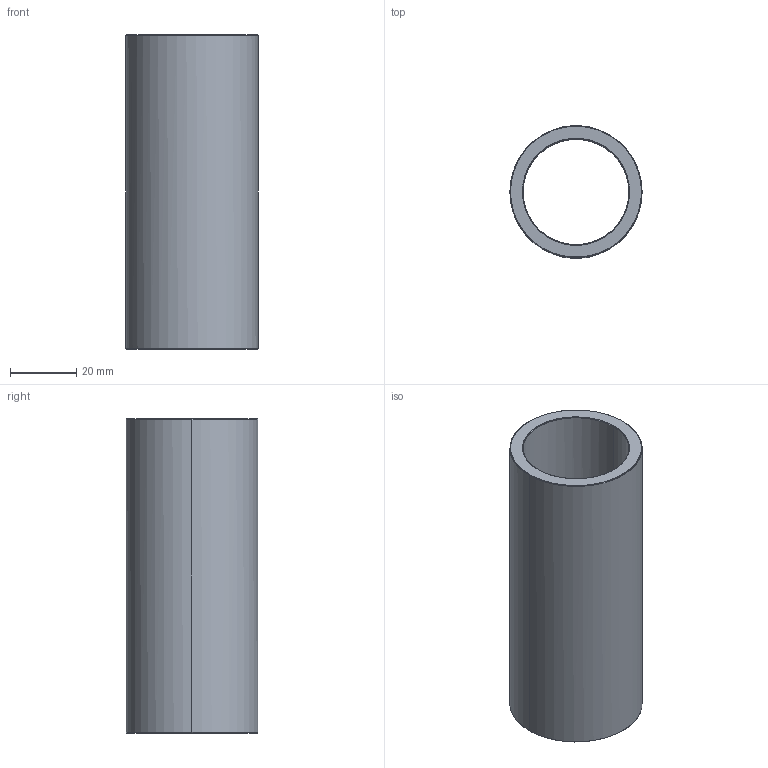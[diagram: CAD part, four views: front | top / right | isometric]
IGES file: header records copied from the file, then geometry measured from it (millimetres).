
Start section: Write IGES format                                    datakit 2008 (c)
Global section: file name: Unknown; native system: DATAKIT Converter; preprocessor: Unknown; author: Unknown; organization: Unknown; date: 950613.180003; units: millimetre
Bounding box: 40 x 39.91 x 95 mm (x, y, z)
Surface area: 22340.3 mm2 (no closed solid volume)
Topology: 0 solids, 0 shells, 14 faces, 56 edges, 56 vertices
Faces by surface type: revolution 12, bspline 2
